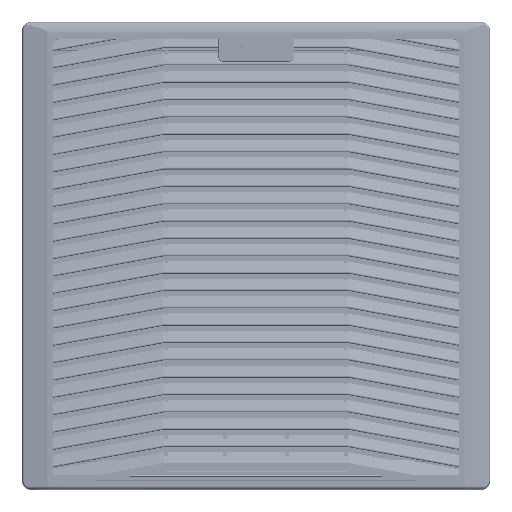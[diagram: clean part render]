
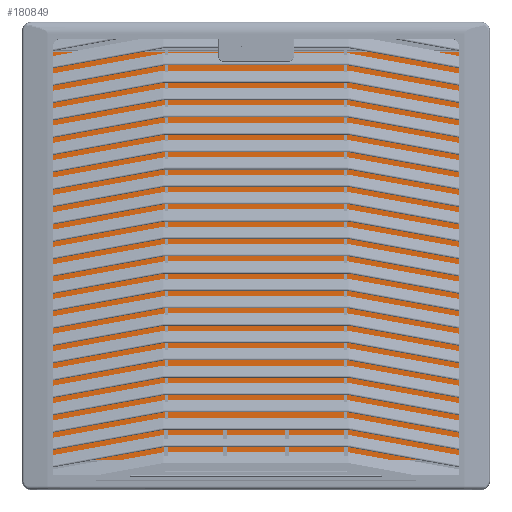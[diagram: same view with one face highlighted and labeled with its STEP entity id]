
A CAD part, top view. The second image highlights one B-rep face of the part: STEP entity #180849.
In plain terms, the highlighted planar face has unit normal (0, 0, 1).
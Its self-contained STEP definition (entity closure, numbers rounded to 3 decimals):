
#17039=PLANE('',#193038);
#23976=FACE_OUTER_BOUND('',#34981,.T.);
#34981=EDGE_LOOP('',(#145042,#145043,#145044,#145045));
#49022=LINE('',#286007,#64045);
#49025=LINE('',#286013,#64048);
#49028=LINE('',#286019,#64051);
#49031=LINE('',#286023,#64054);
#64045=VECTOR('',#218800,10.);
#64048=VECTOR('',#218805,10.);
#64051=VECTOR('',#218810,10.);
#64054=VECTOR('',#218815,10.);
#84023=VERTEX_POINT('',#286004);
#84024=VERTEX_POINT('',#286006);
#84026=VERTEX_POINT('',#286012);
#84028=VERTEX_POINT('',#286018);
#105691=EDGE_CURVE('',#84024,#84023,#49022,.T.);
#105694=EDGE_CURVE('',#84026,#84024,#49025,.T.);
#105697=EDGE_CURVE('',#84028,#84026,#49028,.T.);
#105700=EDGE_CURVE('',#84023,#84028,#49031,.T.);
#145042=ORIENTED_EDGE('',*,*,#105700,.T.);
#145043=ORIENTED_EDGE('',*,*,#105697,.T.);
#145044=ORIENTED_EDGE('',*,*,#105694,.T.);
#145045=ORIENTED_EDGE('',*,*,#105691,.T.);
#180849=ADVANCED_FACE('',(#23976),#17039,.T.);
#193038=AXIS2_PLACEMENT_3D('',#286025,#218818,#218819);
#218800=DIRECTION('',(0.,1.,0.));
#218805=DIRECTION('',(1.,0.,0.));
#218810=DIRECTION('',(0.,-1.,0.));
#218815=DIRECTION('',(-1.,0.,0.));
#218818=DIRECTION('center_axis',(0.,0.,1.));
#218819=DIRECTION('ref_axis',(1.,0.,0.));
#286004=CARTESIAN_POINT('',(140.,140.,14.));
#286006=CARTESIAN_POINT('',(140.,-140.,14.));
#286007=CARTESIAN_POINT('',(140.,140.,14.));
#286012=CARTESIAN_POINT('',(-140.,-140.,14.));
#286013=CARTESIAN_POINT('',(140.,-140.,14.));
#286018=CARTESIAN_POINT('',(-140.,140.,14.));
#286019=CARTESIAN_POINT('',(-140.,-140.,14.));
#286023=CARTESIAN_POINT('',(-140.,140.,14.));
#286025=CARTESIAN_POINT('Origin',(0.,0.,
14.));
